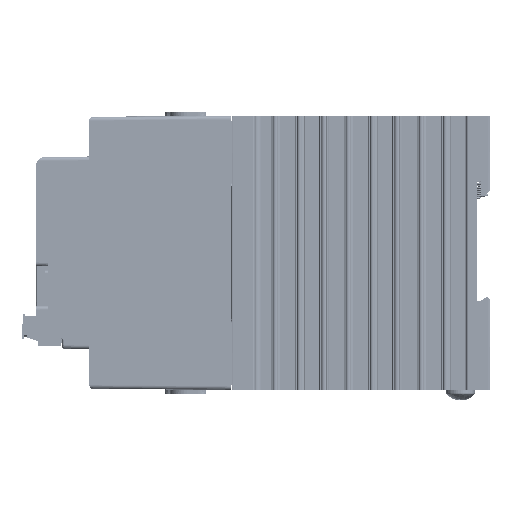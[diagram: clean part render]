
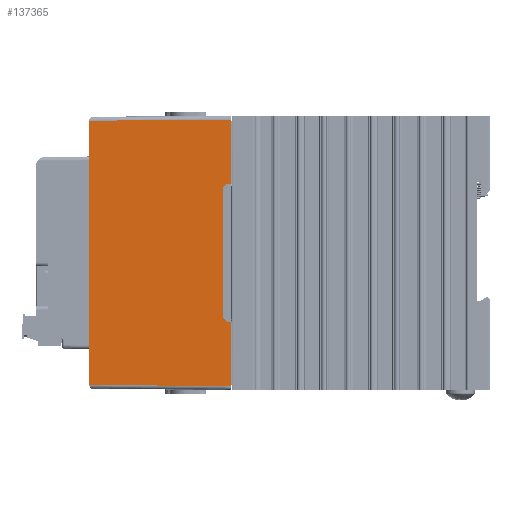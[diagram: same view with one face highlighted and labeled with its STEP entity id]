
A CAD part, left-side view. The second image highlights one B-rep face of the part: STEP entity #137365.
In plain terms, the highlighted planar face has unit normal (-1, 0.009, 0) as drawn and (1, 0, 0.009) by its records, which use the part's own axes.
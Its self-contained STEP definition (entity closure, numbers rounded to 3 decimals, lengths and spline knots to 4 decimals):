
#14399=FACE_OUTER_BOUND('',#21839,.T.);
#21839=EDGE_LOOP('',(#121614,#121615,#121616,#121617,#121618,#121619,#121620,
#121621,#121622,#121623));
#36965=LINE('',#234819,#52568);
#37095=LINE('',#235604,#52698);
#37101=LINE('',#235616,#52704);
#37105=LINE('',#235622,#52708);
#37107=LINE('',#235626,#52710);
#37109=LINE('',#235630,#52712);
#37110=LINE('',#235633,#52713);
#37455=LINE('',#236391,#53058);
#37457=LINE('',#236397,#53060);
#37458=LINE('',#236398,#53061);
#52568=VECTOR('',#179885,0.3937);
#52698=VECTOR('',#180261,0.3937);
#52704=VECTOR('',#180271,0.3937);
#52708=VECTOR('',#180279,0.3937);
#52710=VECTOR('',#180283,0.3937);
#52712=VECTOR('',#180287,0.3937);
#52713=VECTOR('',#180290,0.3937);
#53058=VECTOR('',#181015,0.3937);
#53060=VECTOR('',#181023,0.3937);
#53061=VECTOR('',#181024,0.3937);
#65227=VERTEX_POINT('',#234816);
#65228=VERTEX_POINT('',#234818);
#65331=VERTEX_POINT('',#235601);
#65332=VERTEX_POINT('',#235603);
#65335=VERTEX_POINT('',#235613);
#65336=VERTEX_POINT('',#235615);
#65337=VERTEX_POINT('',#235624);
#65338=VERTEX_POINT('',#235628);
#65339=VERTEX_POINT('',#235632);
#65539=VERTEX_POINT('',#236396);
#83914=EDGE_CURVE('',#65228,#65227,#36965,.T.);
#84102=EDGE_CURVE('',#65332,#65331,#37095,.T.);
#84108=EDGE_CURVE('',#65336,#65335,#37101,.T.);
#84112=EDGE_CURVE('',#65331,#65336,#37105,.T.);
#84114=EDGE_CURVE('',#65335,#65337,#37107,.T.);
#84116=EDGE_CURVE('',#65337,#65338,#37109,.T.);
#84117=EDGE_CURVE('',#65339,#65332,#37110,.T.);
#84483=EDGE_CURVE('',#65339,#65227,#37455,.T.);
#84486=EDGE_CURVE('',#65338,#65539,#37457,.T.);
#84487=EDGE_CURVE('',#65228,#65539,#37458,.T.);
#121614=ORIENTED_EDGE('',*,*,#84116,.T.);
#121615=ORIENTED_EDGE('',*,*,#84486,.T.);
#121616=ORIENTED_EDGE('',*,*,#84487,.F.);
#121617=ORIENTED_EDGE('',*,*,#83914,.T.);
#121618=ORIENTED_EDGE('',*,*,#84483,.F.);
#121619=ORIENTED_EDGE('',*,*,#84117,.T.);
#121620=ORIENTED_EDGE('',*,*,#84102,.T.);
#121621=ORIENTED_EDGE('',*,*,#84112,.T.);
#121622=ORIENTED_EDGE('',*,*,#84108,.T.);
#121623=ORIENTED_EDGE('',*,*,#84114,.T.);
#130787=PLANE('',#147399);
#137365=ADVANCED_FACE('',(#14399),#130787,.T.);
#147399=AXIS2_PLACEMENT_3D('',#236395,#181021,#181022);
#179885=DIRECTION('',(0.,-1.,0.));
#180261=DIRECTION('',(-0.009,0.009,1.));
#180271=DIRECTION('',(0.,1.,0.));
#180279=DIRECTION('',(-0.006,0.71,0.704));
#180283=DIRECTION('',(0.006,0.71,-0.704));
#180287=DIRECTION('',(0.009,0.009,-1.));
#180290=DIRECTION('',(0.,1.,0.));
#181015=DIRECTION('',(-0.009,0.009,1.));
#181021=DIRECTION('center_axis',(1.,0.,
0.009));
#181022=DIRECTION('ref_axis',(0.,1.,0.));
#181023=DIRECTION('',(0.,1.,0.));
#181024=DIRECTION('',(0.009,0.009,-1.));
#234816=CARTESIAN_POINT('',(1.3842,0.0658,1.811));
#234818=CARTESIAN_POINT('',(1.3842,3.4342,1.811));
#234819=CARTESIAN_POINT('',(1.3842,0.,1.811));
#235601=CARTESIAN_POINT('',(1.3995,0.8705,0.0521));
#235603=CARTESIAN_POINT('',(1.4,0.87,0.));
#235604=CARTESIAN_POINT('',(1.3996,0.8704,0.0436));
#235613=CARTESIAN_POINT('',(1.3991,2.5762,0.105));
#235615=CARTESIAN_POINT('',(1.3991,0.9238,0.105));
#235616=CARTESIAN_POINT('',(1.3991,3.0381,0.105));
#235622=CARTESIAN_POINT('',(1.3937,1.5503,0.726));
#235624=CARTESIAN_POINT('',(1.3995,2.6295,0.0521));
#235626=CARTESIAN_POINT('',(1.4015,2.859,-0.1754));
#235628=CARTESIAN_POINT('',(1.4,2.63,0.));
#235630=CARTESIAN_POINT('',(1.4,2.63,0.0023));
#235632=CARTESIAN_POINT('',(1.4,0.05,0.));
#235633=CARTESIAN_POINT('',(1.4,0.,0.));
#236391=CARTESIAN_POINT('',(1.3999,0.0501,0.0148));
#236395=CARTESIAN_POINT('Origin',(1.4,3.5,0.));
#236396=CARTESIAN_POINT('',(1.4,3.45,0.));
#236397=CARTESIAN_POINT('',(1.4,0.,0.));
#236398=CARTESIAN_POINT('',(1.4,3.45,0.0057));
